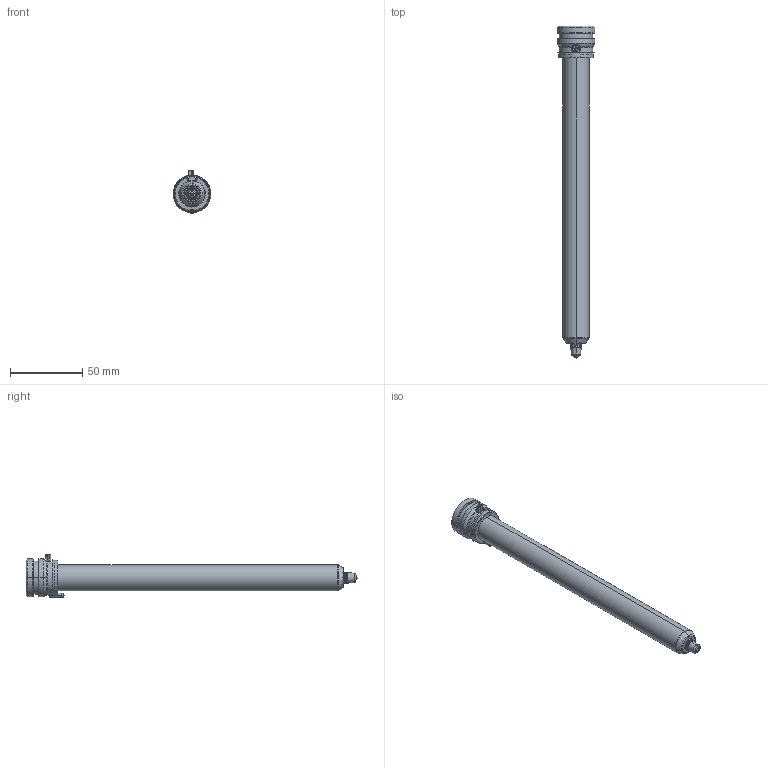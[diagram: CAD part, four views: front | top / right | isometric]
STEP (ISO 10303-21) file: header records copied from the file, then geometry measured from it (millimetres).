
FILE_DESCRIPTION((''),'2;1');
FILE_NAME('TH18211-A-1B50-PK-JG','2023-12-14T',('umhib'),('Thermoplay S.p.A.'),'PRO/ENGINEER BY PARAMETRIC TECHNOLOGY CORPORATION, 2017170','PRO/ENGINEER BY PARAMETRIC TECHNOLOGY CORPORATION, 2017170','');
FILE_SCHEMA(('CONFIG_CONTROL_DESIGN'));
Length unit declared in the file: millimetre
Products named in the file (1): TH18211-A-1B50-PK-JG
Bounding box: 26 x 229 x 29.5 mm (x, y, z)
Volume: 44010.4 mm3; surface area: 32088.7 mm2
Topology: 1 solids, 2 shells, 394 faces, 1026 edges, 637 vertices
Faces by surface type: cylinder 151, plane 85, cone 66, torus 54, bspline 24, sphere 12, extrusion 2
Entity records: 17996 total; most frequent: CARTESIAN_POINT 6173, ORIENTED_EDGE 2028, DIRECTION 2015, EDGE_CURVE 1016, AXIS2_PLACEMENT_3D 808, VERTEX_POINT 637, CIRCLE 439, EDGE_LOOP 414
